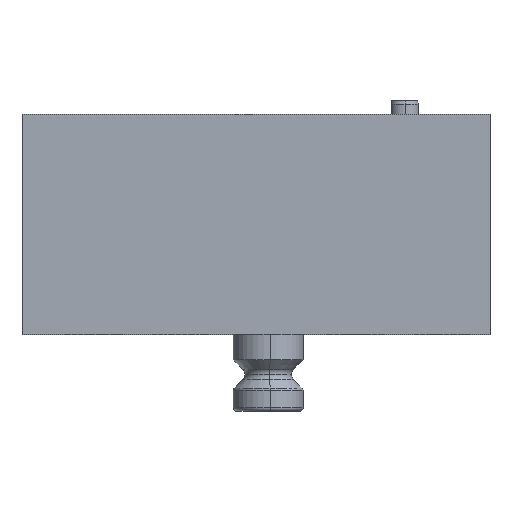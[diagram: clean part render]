
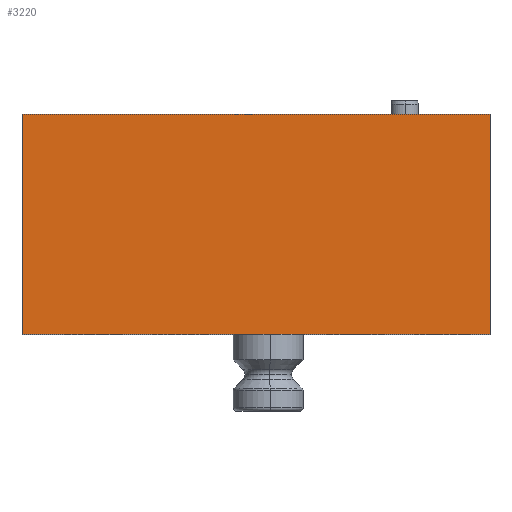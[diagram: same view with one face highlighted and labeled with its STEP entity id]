
A CAD part, top view. The second image highlights one B-rep face of the part: STEP entity #3220.
In plain terms, the highlighted planar face has unit normal (0, 0, 1).
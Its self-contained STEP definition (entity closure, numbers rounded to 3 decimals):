
#108 = LINE ( 'NONE', #1665, #2071 ) ;
#289 = VECTOR ( 'NONE', #1321, 1000. ) ;
#385 = DIRECTION ( 'NONE',  ( 0., 1., 0. ) ) ;
#500 = EDGE_CURVE ( 'NONE', #1113, #528, #1055, .T. ) ;
#528 = VERTEX_POINT ( 'NONE', #1912 ) ;
#671 = VECTOR ( 'NONE', #2751, 1000. ) ;
#703 = LINE ( 'NONE', #1713, #671 ) ;
#728 = ORIENTED_EDGE ( 'NONE', *, *, #2054, .F. ) ;
#765 = LINE ( 'NONE', #795, #289 ) ;
#795 = CARTESIAN_POINT ( 'NONE',  ( -67., -63., 22.5 ) ) ;
#802 = VECTOR ( 'NONE', #1842, 1000. ) ;
#1055 = LINE ( 'NONE', #2045, #802 ) ;
#1092 = EDGE_LOOP ( 'NONE', ( #2855, #3233, #728, #2224 ) ) ;
#1113 = VERTEX_POINT ( 'NONE', #1693 ) ;
#1321 = DIRECTION ( 'NONE',  ( 0., 1., 0. ) ) ;
#1427 = CARTESIAN_POINT ( 'NONE',  ( -67., -63., 22.5 ) ) ;
#1468 = EDGE_CURVE ( 'NONE', #528, #1557, #703, .T. ) ;
#1557 = VERTEX_POINT ( 'NONE', #1631 ) ;
#1561 = FACE_OUTER_BOUND ( 'NONE', #1092, .T. ) ;
#1631 = CARTESIAN_POINT ( 'NONE',  ( -67., 0., 22.5 ) ) ;
#1665 = CARTESIAN_POINT ( 'NONE',  ( -67., -63., 22.5 ) ) ;
#1693 = CARTESIAN_POINT ( 'NONE',  ( 67., -63., 22.5 ) ) ;
#1713 = CARTESIAN_POINT ( 'NONE',  ( -67., 0., 22.5 ) ) ;
#1842 = DIRECTION ( 'NONE',  ( 0., 1., 0. ) ) ;
#1912 = CARTESIAN_POINT ( 'NONE',  ( 67., 0., 22.5 ) ) ;
#1925 = EDGE_CURVE ( 'NONE', #3275, #1557, #765, .T. ) ;
#1968 = CARTESIAN_POINT ( 'NONE',  ( -67., -63., 22.5 ) ) ;
#2045 = CARTESIAN_POINT ( 'NONE',  ( 67., -63., 22.5 ) ) ;
#2054 = EDGE_CURVE ( 'NONE', #1113, #3275, #108, .T. ) ;
#2071 = VECTOR ( 'NONE', #2647, 1000. ) ;
#2224 = ORIENTED_EDGE ( 'NONE', *, *, #500, .T. ) ;
#2587 = PLANE ( 'NONE',  #3274 ) ;
#2647 = DIRECTION ( 'NONE',  ( -1., 0., 0. ) ) ;
#2751 = DIRECTION ( 'NONE',  ( -1., 0., 0. ) ) ;
#2855 = ORIENTED_EDGE ( 'NONE', *, *, #1468, .T. ) ;
#2994 = DIRECTION ( 'NONE',  ( 0., 0., -1. ) ) ;
#3220 = ADVANCED_FACE ( 'NONE', ( #1561 ), #2587, .F. ) ;
#3233 = ORIENTED_EDGE ( 'NONE', *, *, #1925, .F. ) ;
#3274 = AXIS2_PLACEMENT_3D ( 'NONE', #1427, #2994, #385 ) ;
#3275 = VERTEX_POINT ( 'NONE', #1968 ) ;
